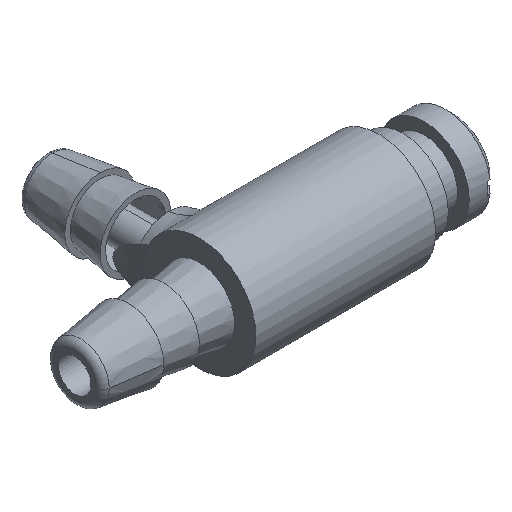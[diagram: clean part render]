
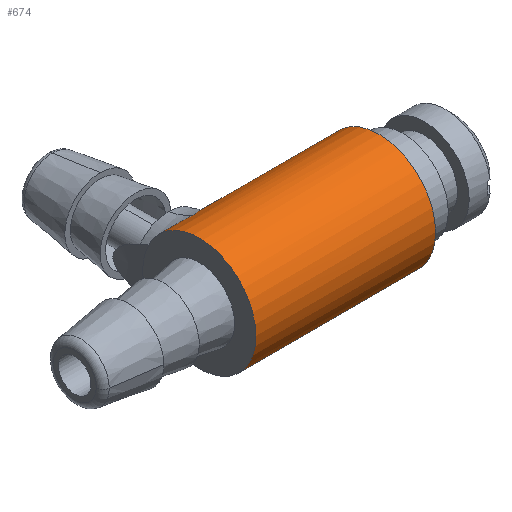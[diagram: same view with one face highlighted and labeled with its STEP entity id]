
A CAD part, isometric view. The second image highlights one B-rep face of the part: STEP entity #674.
In plain terms, the highlighted cylindrical face has radius 4 mm (diameter 8 mm), a full revolution.
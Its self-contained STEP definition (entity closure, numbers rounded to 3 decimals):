
#49=B_SPLINE_CURVE_WITH_KNOTS('',3,(#1190,#1191,#1192,#1193,#1194,#1195,
#1196,#1197,#1198,#1199),.UNSPECIFIED.,.F.,.F.,(4,2,2,2,4),(-1.685,
-1.636,-1.575,-1.378,-1.322),
 .UNSPECIFIED.);
#50=B_SPLINE_CURVE_WITH_KNOTS('',3,(#1201,#1202,#1203,#1204,#1205,#1206,
#1207,#1208,#1209,#1210,#1211,#1212,#1213,#1214,#1215,#1216,#1217,#1218,
#1219,#1220,#1221,#1222,#1223,#1224,#1225,#1226,#1227,#1228,#1229),
 .UNSPECIFIED.,.F.,.F.,(4,2,2,2,2,2,3,2,2,2,2,2,2,4),(-0.562,
-0.511,-0.451,-0.368,-0.202,
-0.094,0.,0.083,0.169,0.339,
0.454,0.512,0.557,0.56),
 .UNSPECIFIED.);
#51=B_SPLINE_CURVE_WITH_KNOTS('',3,(#1231,#1232,#1233,#1234,#1235,#1236,
#1237,#1238,#1239,#1240,#1241,#1242),.UNSPECIFIED.,.F.,.F.,(4,2,2,2,2,4),
(-0.932,-0.776,-0.664,-0.608,
-0.563,-0.562),.UNSPECIFIED.);
#59=CYLINDRICAL_SURFACE('',#769,4.);
#75=LINE('',#1186,#100);
#100=VECTOR('',#935,4.);
#134=FACE_OUTER_BOUND('',#177,.T.);
#177=EDGE_LOOP('',(#505,#506,#507,#508,#509,#510,#511,#512,#513));
#250=CIRCLE('',#770,4.);
#251=CIRCLE('',#771,4.);
#252=CIRCLE('',#772,4.);
#253=CIRCLE('',#773,4.);
#319=VERTEX_POINT('',#1181);
#320=VERTEX_POINT('',#1182);
#321=VERTEX_POINT('',#1185);
#322=VERTEX_POINT('',#1187);
#323=VERTEX_POINT('',#1189);
#324=VERTEX_POINT('',#1200);
#325=VERTEX_POINT('',#1230);
#397=EDGE_CURVE('',#319,#320,#250,.T.);
#398=EDGE_CURVE('',#320,#319,#251,.T.);
#399=EDGE_CURVE('',#320,#321,#75,.T.);
#400=EDGE_CURVE('',#321,#322,#252,.T.);
#401=EDGE_CURVE('',#323,#322,#49,.T.);
#402=EDGE_CURVE('',#324,#323,#50,.T.);
#403=EDGE_CURVE('',#325,#324,#51,.T.);
#404=EDGE_CURVE('',#325,#321,#253,.T.);
#505=ORIENTED_EDGE('',*,*,#397,.F.);
#506=ORIENTED_EDGE('',*,*,#398,.F.);
#507=ORIENTED_EDGE('',*,*,#399,.T.);
#508=ORIENTED_EDGE('',*,*,#400,.T.);
#509=ORIENTED_EDGE('',*,*,#401,.F.);
#510=ORIENTED_EDGE('',*,*,#402,.F.);
#511=ORIENTED_EDGE('',*,*,#403,.F.);
#512=ORIENTED_EDGE('',*,*,#404,.T.);
#513=ORIENTED_EDGE('',*,*,#399,.F.);
#674=ADVANCED_FACE('',(#134),#59,.T.);
#769=AXIS2_PLACEMENT_3D('',#1180,#929,#930);
#770=AXIS2_PLACEMENT_3D('',#1183,#931,#932);
#771=AXIS2_PLACEMENT_3D('',#1184,#933,#934);
#772=AXIS2_PLACEMENT_3D('',#1188,#936,#937);
#773=AXIS2_PLACEMENT_3D('',#1243,#938,#939);
#929=DIRECTION('center_axis',(-1.,0.,0.));
#930=DIRECTION('ref_axis',(0.,1.,0.));
#931=DIRECTION('center_axis',(1.,0.,0.));
#932=DIRECTION('ref_axis',(0.,0.,-1.));
#933=DIRECTION('center_axis',(1.,0.,0.));
#934=DIRECTION('ref_axis',(0.,0.,-1.));
#935=DIRECTION('',(-1.,0.,0.));
#936=DIRECTION('center_axis',(1.,0.,0.));
#937=DIRECTION('ref_axis',(0.,0.897,0.443));
#938=DIRECTION('center_axis',(1.,0.,0.));
#939=DIRECTION('ref_axis',(0.,0.897,0.443));
#1180=CARTESIAN_POINT('Origin',(12.7,0.,0.));
#1181=CARTESIAN_POINT('',(12.7,0.,4.));
#1182=CARTESIAN_POINT('',(12.7,-4.,0.));
#1183=CARTESIAN_POINT('Origin',(12.7,0.,0.));
#1184=CARTESIAN_POINT('Origin',(12.7,0.,0.));
#1185=CARTESIAN_POINT('',(0.,-4.,0.));
#1186=CARTESIAN_POINT('',(12.7,-4.,0.));
#1187=CARTESIAN_POINT('',(0.,3.587,-1.771));
#1188=CARTESIAN_POINT('Origin',(0.,0.,0.));
#1189=CARTESIAN_POINT('',(2.,2.441,-3.169));
#1190=CARTESIAN_POINT('Ctrl Pts',(2.,2.441,-3.169));
#1191=CARTESIAN_POINT('Ctrl Pts',(1.938,2.441,-3.169));
#1192=CARTESIAN_POINT('Ctrl Pts',(1.875,2.45,-3.162));
#1193=CARTESIAN_POINT('Ctrl Pts',(1.717,2.497,-3.125));
#1194=CARTESIAN_POINT('Ctrl Pts',(1.624,2.538,-3.092));
#1195=CARTESIAN_POINT('Ctrl Pts',(1.208,2.753,-2.91));
#1196=CARTESIAN_POINT('Ctrl Pts',(0.742,3.064,-2.625));
#1197=CARTESIAN_POINT('Ctrl Pts',(0.212,3.435,-2.055));
#1198=CARTESIAN_POINT('Ctrl Pts',(0.101,3.514,-1.918));
#1199=CARTESIAN_POINT('Ctrl Pts',(0.,3.587,
-1.771));
#1200=CARTESIAN_POINT('',(2.,2.441,3.169));
#1201=CARTESIAN_POINT('Ctrl Pts',(2.,2.441,3.169));
#1202=CARTESIAN_POINT('Ctrl Pts',(2.066,2.441,3.169));
#1203=CARTESIAN_POINT('Ctrl Pts',(2.134,2.452,3.161));
#1204=CARTESIAN_POINT('Ctrl Pts',(2.299,2.503,3.12));
#1205=CARTESIAN_POINT('Ctrl Pts',(2.394,2.547,3.085));
#1206=CARTESIAN_POINT('Ctrl Pts',(2.634,2.673,2.978));
#1207=CARTESIAN_POINT('Ctrl Pts',(2.791,2.767,2.892));
#1208=CARTESIAN_POINT('Ctrl Pts',(3.282,3.08,2.57));
#1209=CARTESIAN_POINT('Ctrl Pts',(3.651,3.336,2.257));
#1210=CARTESIAN_POINT('Ctrl Pts',(4.152,3.695,1.562));
#1211=CARTESIAN_POINT('Ctrl Pts',(4.314,3.814,1.254));
#1212=CARTESIAN_POINT('Ctrl Pts',(4.515,3.963,0.622));
#1213=CARTESIAN_POINT('Ctrl Pts',(4.565,4.,0.314));
#1214=CARTESIAN_POINT('Ctrl Pts',(4.565,4.,0.));
#1215=CARTESIAN_POINT('Ctrl Pts',(4.565,4.,-0.276));
#1216=CARTESIAN_POINT('Ctrl Pts',(4.527,3.971,-0.546));
#1217=CARTESIAN_POINT('Ctrl Pts',(4.379,3.862,-1.078));
#1218=CARTESIAN_POINT('Ctrl Pts',(4.269,3.781,-1.33));
#1219=CARTESIAN_POINT('Ctrl Pts',(3.866,3.489,-2.019));
#1220=CARTESIAN_POINT('Ctrl Pts',(3.509,3.235,-2.381));
#1221=CARTESIAN_POINT('Ctrl Pts',(2.897,2.831,-2.836));
#1222=CARTESIAN_POINT('Ctrl Pts',(2.656,2.681,-2.971));
#1223=CARTESIAN_POINT('Ctrl Pts',(2.367,2.534,-3.095));
#1224=CARTESIAN_POINT('Ctrl Pts',(2.278,2.495,-3.126));
#1225=CARTESIAN_POINT('Ctrl Pts',(2.129,2.452,-3.161));
#1226=CARTESIAN_POINT('Ctrl Pts',(2.07,2.442,-3.168));
#1227=CARTESIAN_POINT('Ctrl Pts',(2.009,2.441,-3.169));
#1228=CARTESIAN_POINT('Ctrl Pts',(2.004,2.441,-3.169));
#1229=CARTESIAN_POINT('Ctrl Pts',(2.,2.441,-3.169));
#1230=CARTESIAN_POINT('',(0.,3.587,1.771));
#1231=CARTESIAN_POINT('Ctrl Pts',(0.,3.587,
1.771));
#1232=CARTESIAN_POINT('Ctrl Pts',(0.268,3.394,2.161));
#1233=CARTESIAN_POINT('Ctrl Pts',(0.597,3.163,2.469));
#1234=CARTESIAN_POINT('Ctrl Pts',(1.152,2.801,2.865));
#1235=CARTESIAN_POINT('Ctrl Pts',(1.377,2.663,2.987));
#1236=CARTESIAN_POINT('Ctrl Pts',(1.652,2.526,3.102));
#1237=CARTESIAN_POINT('Ctrl Pts',(1.737,2.49,3.131));
#1238=CARTESIAN_POINT('Ctrl Pts',(1.882,2.449,3.162));
#1239=CARTESIAN_POINT('Ctrl Pts',(1.941,2.441,3.169));
#1240=CARTESIAN_POINT('Ctrl Pts',(1.999,2.441,3.169));
#1241=CARTESIAN_POINT('Ctrl Pts',(2.,2.441,3.169));
#1242=CARTESIAN_POINT('Ctrl Pts',(2.,2.441,3.169));
#1243=CARTESIAN_POINT('Origin',(0.,0.,0.));
